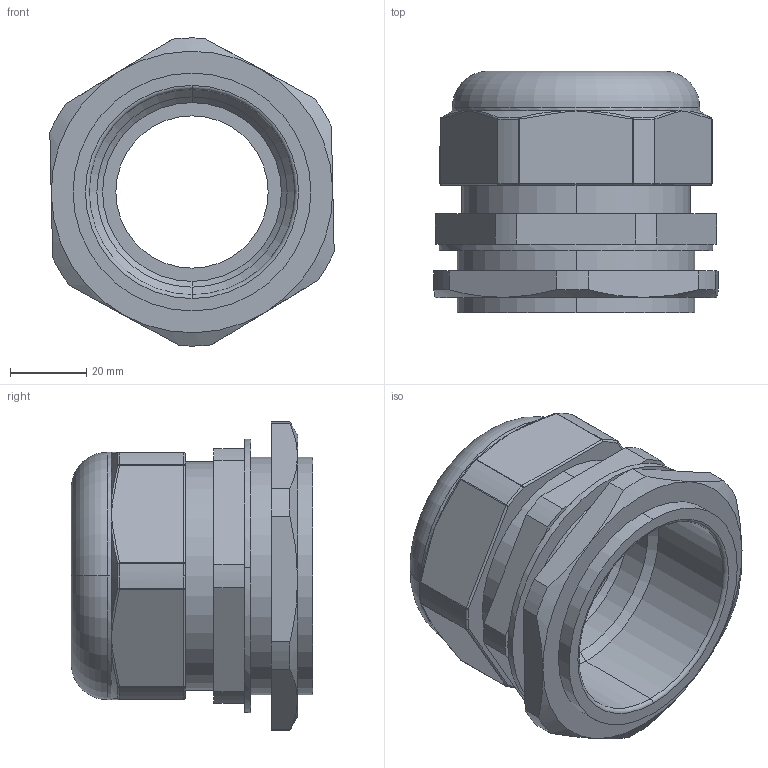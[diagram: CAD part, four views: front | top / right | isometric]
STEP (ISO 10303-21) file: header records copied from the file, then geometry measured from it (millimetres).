
FILE_DESCRIPTION (( 'STEP AP203' ), '1' );
FILE_NAME ('KPM_63-40.step', '2011-08-08T11:42:30', ( '' ), ( '' ), 'SwSTEP 2.0', 'SolidWorks 2011', '' );
FILE_SCHEMA (( 'CONFIG_CONTROL_DESIGN' ));
Length unit declared in the file: millimetre
Products named in the file (1): KPM_63-40
Bounding box: 74.73 x 63.5 x 80.99 mm (x, y, z)
Volume: 101561 mm3; surface area: 38825.6 mm2
Topology: 1 solids, 2 shells, 192 faces, 439 edges, 233 vertices
Faces by surface type: cylinder 63, plane 40, sphere 24, bspline 24, cone 21, torus 20
Entity records: 5603 total; most frequent: CARTESIAN_POINT 1381, DIRECTION 946, ORIENTED_EDGE 830, EDGE_CURVE 415, AXIS2_PLACEMENT_3D 410, CIRCLE 241, VERTEX_POINT 233, EDGE_LOOP 202
